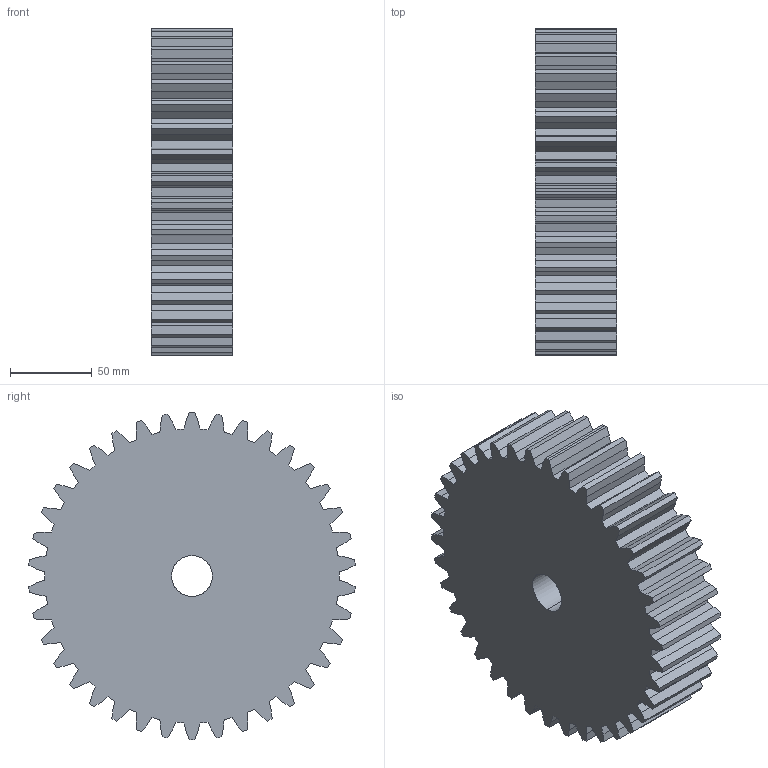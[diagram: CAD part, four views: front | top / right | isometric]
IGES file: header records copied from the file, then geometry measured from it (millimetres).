
Start section: SolidWorks IGES file using analytic representation for surfaces
Global section: file name: C:\Users\Honza\Desktop\Matis (Hotove)\Èelní ozubená kola\MODUL 5\CM 32038.IGS; native system: SolidWorks 2010; preprocessor: SolidWorks 2010; author: Honza; date: 130923.122159; units: millimetre
Bounding box: 50 x 199.56 x 200 mm (x, y, z)
Surface area: 115325.3 mm2 (no closed solid volume)
Topology: 0 solids, 0 shells, 233 faces, 1463 edges, 1463 vertices
Faces by surface type: bspline 154, revolution 79
